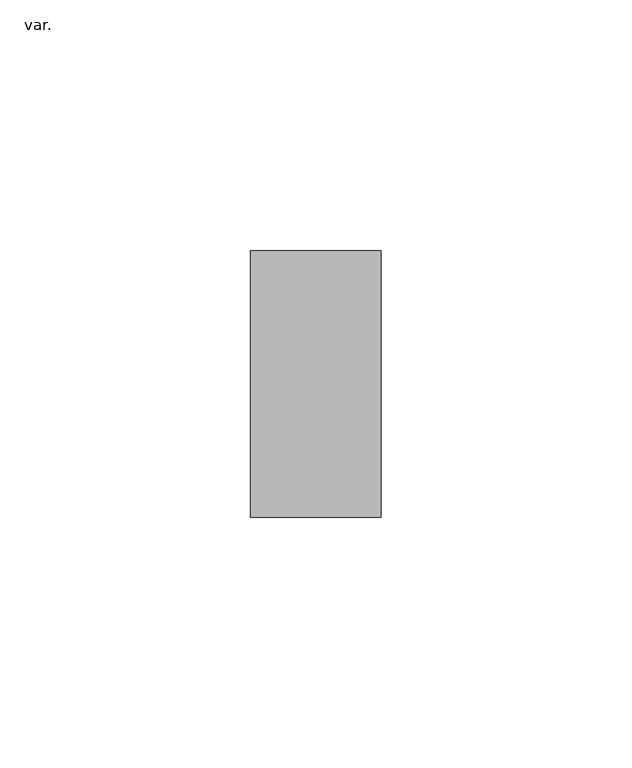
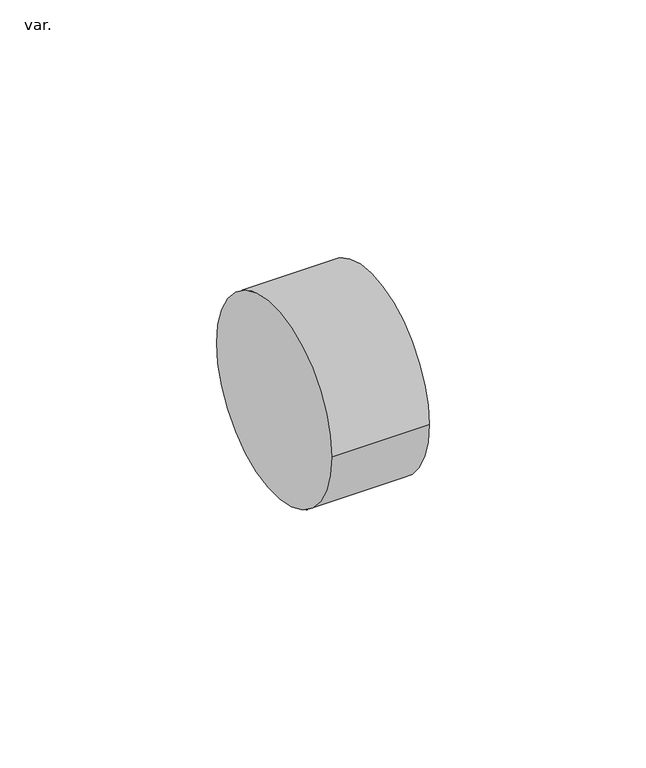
"""IFC4 building model written with IfcOpenShell, lengths in millimetres: pipe fitting geometry, Wavin SiTech+ Z_DO_NOT_USE_Transition Reducer Rubber : var.."""

from ifc_helpers import new_model, si_unit, point, frame, origin, origin_2d, place, context, project, spatial, circle_curve, trimmed, segment, composite_curve, outline, extrude, source, transform, mapped, element, save


def var_4d6ae992(model_context):
    return source(origin(), model_context, "Body", "SweptSolid", [
        extrude(outline(composite_curve([segment(trimmed(circle_curve(origin_2d(), 26.5), [point((-26.5, 0.0))], [point((26.5, 0.0))], False, "CARTESIAN"), True, "CONTINUOUS"), segment(trimmed(circle_curve(origin_2d(), 26.5), [point((26.5, 0.0))], [point((-26.5, 0.0))], False, "CARTESIAN"), True, "CONTINUOUS")], self_intersect=False)), frame((0.0, 0.0, 0.0), z_axis=(1.0, 0.0, 0.0), x_axis=(0.0, 1.0, 0.0)), (0.0, 0.0, 1.0), 26.0),
    ])


if __name__ == "__main__":
    model = new_model("IFC4")
    model_context = context("Model", 3, world=origin())
    ifc_project = project(units=[si_unit("LENGTHUNIT", "METRE", prefix="MILLI")], contexts=[model_context])
    site = spatial("IfcSite", under=ifc_project)
    building = spatial("IfcBuilding", under=site)
    placement = place(None, origin())
    var_shape = var_4d6ae992(model_context)
    element("IfcPipeFitting", 1, ObjectType="Wavin SiTech+ Z_DO_NOT_USE_Transition Reducer Rubber : var.", at=placement, inside=building, context=model_context, shape_type="MappedRepresentation", body=[
        mapped(var_shape, transform((0.0, 0.0, 0.0), x_axis=(1.0, 0.0, 0.0), y_axis=(0.0, 1.0, 0.0), z_axis=(0.0, 0.0, 1.0))),
    ])
    save(model, "model.ifc")
